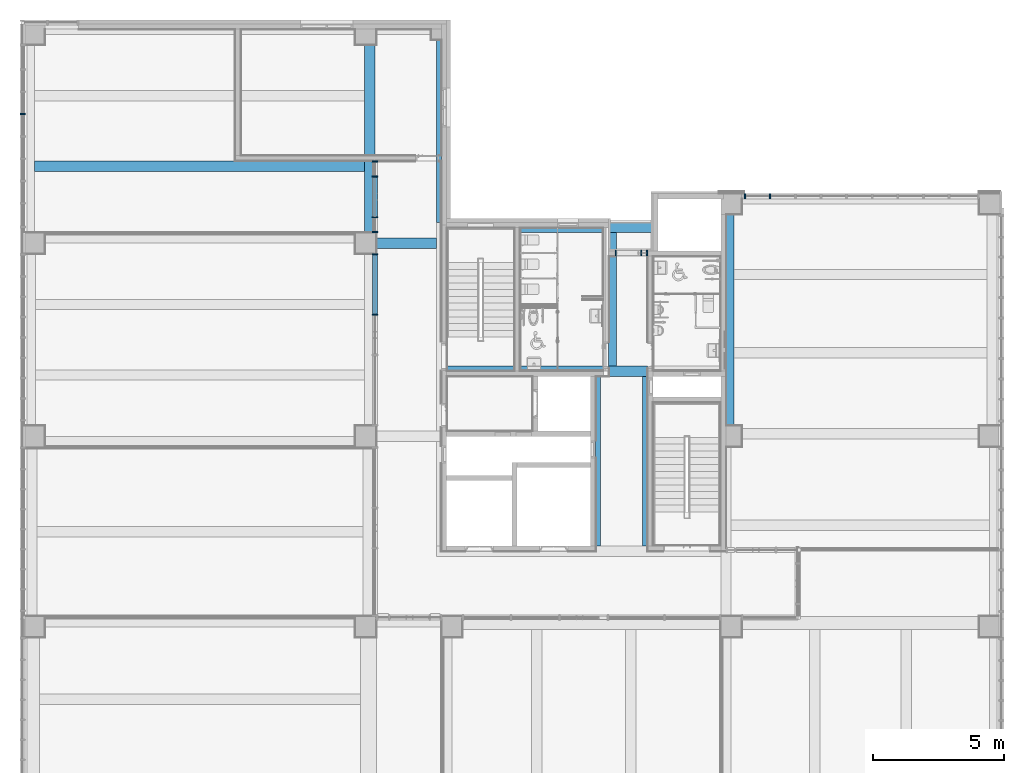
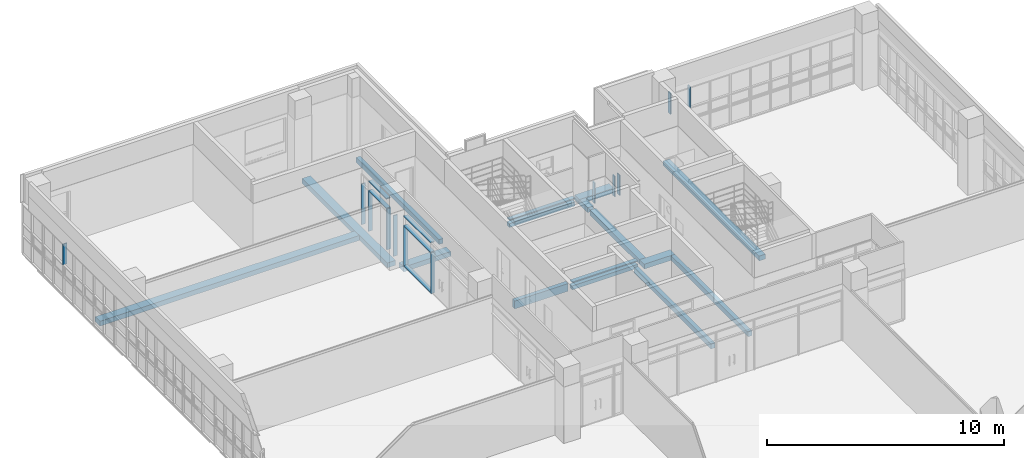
# One storey, part 7 of 76: 17 members, 10 beams, 5 elements without a shape of their own.
"""IFC2X3 building model written with IfcOpenShell, lengths in millimetres."""

from ifc_helpers import new_model, entity, si_unit, converted_unit, derived_unit, direction, frame, frame_2d, origin, origin_2d_with_axis, place, context, subcontext, project, spatial, rectangle, extrude, source, transform, mapped, material, type_object, type_shapes, element, aggregate, save


model = new_model("IFC2X3")

# Units and contexts
model_context = context("Model", 3, precision=0.01, world=origin(), true_north=direction((6.123031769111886e-17, 1.0)))
body_context = subcontext(model_context, "Body", "Model", "MODEL_VIEW")
ifc_project = project(units=[si_unit("LENGTHUNIT", "METRE", prefix="MILLI"), si_unit("AREAUNIT", "SQUARE_METRE"), si_unit("VOLUMEUNIT", "CUBIC_METRE"), converted_unit("PLANEANGLEUNIT", "DEGREE", entity("IfcRatioMeasure", 0.017453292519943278), si_unit("PLANEANGLEUNIT", "RADIAN"), dimensions=[0, 0, 0, 0, 0, 0, 0]), si_unit("MASSUNIT", "GRAM", prefix="KILO"), derived_unit("MASSDENSITYUNIT", [(si_unit("MASSUNIT", "GRAM", prefix="KILO"), 1), (si_unit("LENGTHUNIT", "METRE"), -3)]), derived_unit("MOMENTOFINERTIAUNIT", [(si_unit("LENGTHUNIT", "METRE"), 4)]), si_unit("TIMEUNIT", "SECOND"), si_unit("FREQUENCYUNIT", "HERTZ"), si_unit("THERMODYNAMICTEMPERATUREUNIT", "DEGREE_CELSIUS"), derived_unit("THERMALTRANSMITTANCEUNIT", [(si_unit("MASSUNIT", "GRAM", prefix="KILO"), 1), (si_unit("THERMODYNAMICTEMPERATUREUNIT", "KELVIN"), -1), (si_unit("TIMEUNIT", "SECOND"), -3)]), derived_unit("VOLUMETRICFLOWRATEUNIT", [(si_unit("LENGTHUNIT", "METRE"), 3), (si_unit("TIMEUNIT", "SECOND"), -1)]), derived_unit("MASSFLOWRATEUNIT", [(si_unit("MASSUNIT", "GRAM", prefix="KILO"), 1), (si_unit("TIMEUNIT", "SECOND"), -1)]), derived_unit("ROTATIONALFREQUENCYUNIT", [(si_unit("TIMEUNIT", "SECOND"), -1)]), si_unit("ELECTRICCURRENTUNIT", "AMPERE"), si_unit("ELECTRICVOLTAGEUNIT", "VOLT"), si_unit("POWERUNIT", "WATT"), si_unit("FORCEUNIT", "NEWTON", prefix="KILO"), si_unit("ILLUMINANCEUNIT", "LUX"), si_unit("LUMINOUSFLUXUNIT", "LUMEN"), si_unit("LUMINOUSINTENSITYUNIT", "CANDELA"), derived_unit("USERDEFINED", [(si_unit("MASSUNIT", "GRAM", prefix="KILO"), -1), (si_unit("LENGTHUNIT", "METRE"), -2), (si_unit("TIMEUNIT", "SECOND"), 3), (si_unit("LUMINOUSFLUXUNIT", "LUMEN"), 1)]), derived_unit("SOUNDPOWERUNIT", [(si_unit("MASSUNIT", "GRAM", prefix="KILO"), 1), (si_unit("LENGTHUNIT", "METRE"), 2), (si_unit("TIMEUNIT", "SECOND"), -3)]), derived_unit("SOUNDPRESSUREUNIT", [(si_unit("MASSUNIT", "GRAM", prefix="KILO"), 1), (si_unit("LENGTHUNIT", "METRE"), -1), (si_unit("TIMEUNIT", "SECOND"), -2)]), derived_unit("LINEARVELOCITYUNIT", [(si_unit("LENGTHUNIT", "METRE"), 1), (si_unit("TIMEUNIT", "SECOND"), -1)]), si_unit("PRESSUREUNIT", "PASCAL"), derived_unit("USERDEFINED", [(si_unit("LENGTHUNIT", "METRE"), -2), (si_unit("MASSUNIT", "GRAM", prefix="KILO"), 1), (si_unit("TIMEUNIT", "SECOND"), -2)]), derived_unit("LINEARFORCEUNIT", [(si_unit("MASSUNIT", "GRAM", prefix="KILO"), 1), (si_unit("LENGTHUNIT", "METRE"), 1), (si_unit("TIMEUNIT", "SECOND"), -2), (si_unit("LENGTHUNIT", "METRE"), -1)]), derived_unit("PLANARFORCEUNIT", [(si_unit("MASSUNIT", "GRAM", prefix="KILO"), 1), (si_unit("LENGTHUNIT", "METRE"), 1), (si_unit("TIMEUNIT", "SECOND"), -2), (si_unit("LENGTHUNIT", "METRE"), -2)])], contexts=[model_context])

# Site, building, storey
site_placement = place(None, frame((-14167.972527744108, -657.2125860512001, 0.0)))
site = spatial("IfcSite", under=ifc_project, at=site_placement, Name="Default", CompositionType="ELEMENT")
building_placement = place(site_placement, origin())
building = spatial("IfcBuilding", under=site, at=building_placement, Name="Sample Building", CompositionType="ELEMENT")
storey_placement = place(building_placement, frame((0.0, 0.0, 9300.0)))
storey = spatial("IfcBuildingStorey", under=building, at=storey_placement, Name="지상 3층", CompositionType="ELEMENT", Elevation=9300.000000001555)

# Curtain wall, members
curtain_wall_type = type_object("IfcCurtainWallType", Name="커튼월:CW112-스테인리스 스틸 커튼월", PredefinedType="NOTDEFINED")
curtain_wall_1_placement = place(storey_placement, frame((0.0, 0.0, -9300.0)))
curtain_wall_1 = element("IfcCurtainWall", 1, at=curtain_wall_1_placement, inside=storey, type_object=curtain_wall_type, Name="커튼월:CW112-스테인리스 스틸 커튼월", ObjectType="커튼월:CW112-스테인리스 스틸 커튼월")
ifc_material_1 = material(Name="<Unnamed>")
member_type_1 = type_object("IfcMemberType", Name="직사각형 멀리언:CW200-직사각형 멀리언 50x200mm", PredefinedType="MULLION", material=ifc_material_1)
shared_shape_1 = source(origin(), body_context, "Body", "SweptSolid", [
    extrude(rectangle(XDim=200.0, YDim=50.0, at=origin_2d_with_axis()), frame((0.0, 0.0, -2100.0), z_axis=(0.0, 0.0, 1.0), x_axis=(0.0, -1.0, 0.0)), (0.0, 0.0, 1.0), 2100.0),
])
type_shapes(member_type_1, [shared_shape_1])
member_1_placement = place(curtain_wall_1_placement, frame((27522.955105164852, 29907.21227524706, 9380.0), z_axis=(0.0, 0.0, -1.0), x_axis=(0.0, -1.0, 0.0)))
member_1 = element("IfcMember", 2, at=member_1_placement, type_object=member_type_1, material=ifc_material_1, Name="직사각형 멀리언:CW200-직사각형 멀리언 50x200mm", ObjectType="직사각형 멀리언:CW200-직사각형 멀리언 50x200mm", context=body_context, shape_type="MappedRepresentation", body=[
    mapped(shared_shape_1, transform((0.0, 0.0, 0.0), scale=1.0)),
])
member_2_placement = place(curtain_wall_1_placement, frame((27522.955105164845, 28352.21258605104, 9380.0), z_axis=(0.0, 0.0, -1.0), x_axis=(0.0, -1.0, 0.0)))
member_2 = element("IfcMember", 3, at=member_2_placement, type_object=member_type_1, material=ifc_material_1, Name="직사각형 멀리언:CW200-직사각형 멀리언 50x200mm", ObjectType="직사각형 멀리언:CW200-직사각형 멀리언 50x200mm", context=body_context, shape_type="MappedRepresentation", body=[
    mapped(shared_shape_1, transform((0.0, 0.0, 0.0), scale=1.0)),
])

# Curtain wall, member
curtain_wall_2_placement = place(storey_placement, frame((0.0, 0.0, -9300.0)))
curtain_wall_2 = element("IfcCurtainWall", 4, at=curtain_wall_2_placement, inside=storey, type_object=curtain_wall_type, Name="커튼월:CW112-스테인리스 스틸 커튼월", ObjectType="커튼월:CW112-스테인리스 스틸 커튼월")
member_3_placement = place(curtain_wall_2_placement, frame((27522.955105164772, 24617.21230799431, 9380.0), z_axis=(0.0, 0.0, -1.0), x_axis=(0.0, -1.0, 0.0)))
member_3 = element("IfcMember", 5, at=member_3_placement, type_object=member_type_1, material=ifc_material_1, Name="직사각형 멀리언:CW200-직사각형 멀리언 50x200mm", ObjectType="직사각형 멀리언:CW200-직사각형 멀리언 50x200mm", context=body_context, shape_type="MappedRepresentation", body=[
    mapped(shared_shape_1, transform((0.0, 0.0, 0.0), scale=1.0)),
])

# Member
member_type_2 = type_object("IfcMemberType", Name="직사각형 멀리언:CW200-직사각형 멀리언 50x200mm", PredefinedType="MULLION", material=ifc_material_1)
shared_shape_2 = source(origin(), body_context, "Body", "SweptSolid", [
    extrude(rectangle(XDim=200.0, YDim=50.0, at=origin_2d_with_axis()), frame((-25.0, 0.0, -2100.0), z_axis=(0.0, 0.0, 1.0), x_axis=(0.0, -1.0, 0.0)), (0.0, 0.0, 1.0), 2099.9999999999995),
])
type_shapes(member_type_2, [shared_shape_2])
member_4_placement = place(curtain_wall_1_placement, frame((27522.955105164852, 30507.21227524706, 11480.0), z_axis=(0.0, 0.0, 1.0), x_axis=(0.0, 1.0, 0.0)))
member_4 = element("IfcMember", 6, at=member_4_placement, type_object=member_type_2, material=ifc_material_1, Name="직사각형 멀리언:CW200-직사각형 멀리언 50x200mm", ObjectType="직사각형 멀리언:CW200-직사각형 멀리언 50x200mm", context=body_context, shape_type="MappedRepresentation", body=[
    mapped(shared_shape_2, transform((0.0, 0.0, 0.0), scale=1.0)),
])

member_5_placement = place(curtain_wall_2_placement, frame((27522.955105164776, 26957.21230799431, 11480.0), z_axis=(0.0, 0.0, 1.0), x_axis=(0.0, 1.0, 0.0)))
member_5 = element("IfcMember", 7, at=member_5_placement, type_object=member_type_2, material=ifc_material_1, Name="직사각형 멀리언:CW200-직사각형 멀리언 50x200mm", ObjectType="직사각형 멀리언:CW200-직사각형 멀리언 50x200mm", context=body_context, shape_type="MappedRepresentation", body=[
    mapped(shared_shape_2, transform((0.0, 0.0, 0.0), scale=1.0)),
])

member_type_3 = type_object("IfcMemberType", Name="직사각형 멀리언:CW200-직사각형 멀리언 50x200mm", PredefinedType="MULLION", material=ifc_material_1)
shared_shape_3 = source(origin(), body_context, "Body", "SweptSolid", [
    extrude(rectangle(XDim=200.0, YDim=50.0, at=origin_2d_with_axis()), frame((-25.0, 0.0, -2100.0), z_axis=(0.0, 0.0, 1.0), x_axis=(0.0, -1.0, 0.0)), (0.0, 0.0, 1.0), 2100.0),
])
type_shapes(member_type_3, [shared_shape_3])
member_6_placement = place(curtain_wall_1_placement, frame((27522.955105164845, 27757.21230799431, 9380.0), z_axis=(0.0, 0.0, -1.0), x_axis=(0.0, -1.0, 0.0)))
member_6 = element("IfcMember", 8, at=member_6_placement, type_object=member_type_3, material=ifc_material_1, Name="직사각형 멀리언:CW200-직사각형 멀리언 50x200mm", ObjectType="직사각형 멀리언:CW200-직사각형 멀리언 50x200mm", context=body_context, shape_type="MappedRepresentation", body=[
    mapped(shared_shape_3, transform((0.0, 0.0, 0.0), scale=1.0)),
])

# Curtain wall, members
curtain_wall_3_placement = place(storey_placement, frame((0.0, 0.0, -9300.0)))
curtain_wall_3 = element("IfcCurtainWall", 9, at=curtain_wall_3_placement, inside=storey, type_object=curtain_wall_type, Name="커튼월:CW112-스테인리스 스틸 커튼월", ObjectType="커튼월:CW112-스테인리스 스틸 커튼월")
member_type_4 = type_object("IfcMemberType", Name="직사각형 멀리언:CW200-직사각형 멀리언 50x200mm", PredefinedType="MULLION", material=ifc_material_1)
shared_shape_4 = source(origin(), body_context, "Body", "SweptSolid", [
    extrude(rectangle(XDim=200.0, YDim=50.0, at=origin_2d_with_axis()), frame((-25.0, 0.0, -1050.0), z_axis=(0.0, 0.0, 1.0), x_axis=(0.0, -1.0, 0.0)), (0.0, 0.0, 1.0), 1050.0),
])
type_shapes(member_type_4, [shared_shape_4])
member_7_placement = place(curtain_wall_3_placement, frame((37967.96379814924, 26982.21229514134, 9380.0), z_axis=(0.0, 0.0, -1.0), x_axis=(1.0, 0.0, 0.0)))
member_7 = element("IfcMember", 10, at=member_7_placement, type_object=member_type_4, material=ifc_material_1, Name="직사각형 멀리언:CW200-직사각형 멀리언 50x200mm", ObjectType="직사각형 멀리언:CW200-직사각형 멀리언 50x200mm", context=body_context, shape_type="MappedRepresentation", body=[
    mapped(shared_shape_4, transform((0.0, 0.0, 0.0), scale=1.0)),
])
member_type_5 = type_object("IfcMemberType", Name="직사각형 멀리언:CW200-직사각형 멀리언 50x200mm", PredefinedType="MULLION", material=ifc_material_1)
shared_shape_5 = source(origin(), body_context, "Body", "SweptSolid", [
    extrude(rectangle(XDim=200.0, YDim=50.0, at=origin_2d_with_axis()), frame((0.0, 0.0, -1050.0), z_axis=(0.0, 0.0, 1.0), x_axis=(0.0, -1.0, 0.0)), (0.0, 0.0, 1.0), 1050.0),
])
type_shapes(member_type_5, [shared_shape_5])
member_8_placement = place(curtain_wall_3_placement, frame((37717.963798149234, 26982.21229514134, 9380.0), z_axis=(0.0, 0.0, -1.0), x_axis=(1.0, 0.0, 0.0)))
member_8 = element("IfcMember", 11, at=member_8_placement, type_object=member_type_5, material=ifc_material_1, Name="직사각형 멀리언:CW200-직사각형 멀리언 50x200mm", ObjectType="직사각형 멀리언:CW200-직사각형 멀리언 50x200mm", context=body_context, shape_type="MappedRepresentation", body=[
    mapped(shared_shape_5, transform((0.0, 0.0, 0.0), scale=1.0)),
])
member_type_6 = type_object("IfcMemberType", Name="직사각형 멀리언:CW200-직사각형 멀리언 50x200mm", PredefinedType="MULLION", material=ifc_material_1)
shared_shape_6 = source(origin(), body_context, "Body", "SweptSolid", [
    extrude(rectangle(XDim=200.0, YDim=50.0, at=origin_2d_with_axis()), frame((-25.0, 0.0, -1050.0), z_axis=(0.0, 0.0, 1.0), x_axis=(0.0, -1.0, 0.0)), (0.0, 0.0, 1.0), 1050.0),
])
type_shapes(member_type_6, [shared_shape_6])
member_9_placement = place(curtain_wall_3_placement, frame((36717.963798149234, 26982.212295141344, 10430.0), z_axis=(0.0, 0.0, 1.0), x_axis=(-1.0, 0.0, 0.0)))
member_9 = element("IfcMember", 12, at=member_9_placement, type_object=member_type_6, material=ifc_material_1, Name="직사각형 멀리언:CW200-직사각형 멀리언 50x200mm", ObjectType="직사각형 멀리언:CW200-직사각형 멀리언 50x200mm", context=body_context, shape_type="MappedRepresentation", body=[
    mapped(shared_shape_6, transform((0.0, 0.0, 0.0), scale=1.0)),
])
aggregate(curtain_wall_3, [member_7, member_8, member_9])

# Member
member_type_7 = type_object("IfcMemberType", Name="직사각형 멀리언:CW200-직사각형 멀리언 50x200mm", PredefinedType="MULLION", material=ifc_material_1)
shared_shape_7 = source(origin(), body_context, "Body", "SweptSolid", [
    extrude(rectangle(XDim=200.0, YDim=50.0, at=origin_2d_with_axis()), frame((0.0, 0.0, -1504.9996891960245), z_axis=(0.0, 0.0, 1.0), x_axis=(0.0, -1.0, 0.0)), (0.0, 0.0, 1.0), 1504.9996891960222),
])
type_shapes(member_type_7, [shared_shape_7])
member_10_placement = place(curtain_wall_1_placement, frame((27522.955105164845, 28377.212586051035, 11480.0), z_axis=(0.0, -1.0, 0.0), x_axis=(0.0, 0.0, 1.0)))
member_10 = element("IfcMember", 13, at=member_10_placement, type_object=member_type_7, material=ifc_material_1, Name="직사각형 멀리언:CW200-직사각형 멀리언 50x200mm", ObjectType="직사각형 멀리언:CW200-직사각형 멀리언 50x200mm", context=body_context, shape_type="MappedRepresentation", body=[
    mapped(shared_shape_7, transform((0.0, 0.0, 0.0), scale=1.0)),
])

member_type_8 = type_object("IfcMemberType", Name="직사각형 멀리언:CW200-직사각형 멀리언 50x200mm", PredefinedType="MULLION", material=ifc_material_1)
shared_shape_8 = source(origin(), body_context, "Body", "SweptSolid", [
    extrude(rectangle(XDim=200.0, YDim=50.0, at=origin_2d_with_axis()), frame((-25.0, 0.0, -1504.9996891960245), z_axis=(0.0, 0.0, 1.0), x_axis=(0.0, -1.0, 0.0)), (0.0, 0.0, 1.0), 1504.9996891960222),
])
type_shapes(member_type_8, [shared_shape_8])
member_11_placement = place(curtain_wall_1_placement, frame((27522.955105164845, 28377.212586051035, 12000.0), z_axis=(0.0, -1.0, 0.0), x_axis=(0.0, 0.0, 1.0)))
member_11 = element("IfcMember", 14, at=member_11_placement, type_object=member_type_8, material=ifc_material_1, Name="직사각형 멀리언:CW200-직사각형 멀리언 50x200mm", ObjectType="직사각형 멀리언:CW200-직사각형 멀리언 50x200mm", context=body_context, shape_type="MappedRepresentation", body=[
    mapped(shared_shape_8, transform((0.0, 0.0, 0.0), scale=1.0)),
])

aggregate(curtain_wall_1, [member_6, member_4, member_10, member_1, member_11, member_2])

member_type_9 = type_object("IfcMemberType", Name="직사각형 멀리언:CW200-직사각형 멀리언 50x200mm", PredefinedType="MULLION", material=ifc_material_1)
shared_shape_9 = source(origin(), body_context, "Body", "SweptSolid", [
    extrude(rectangle(XDim=200.0, YDim=50.0, at=origin_2d_with_axis()), frame((-25.0, 0.0, -2265.0), z_axis=(0.0, 0.0, 1.0), x_axis=(0.0, -1.0, 0.0)), (0.0, 0.0, 1.0), 2265.000000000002),
])
type_shapes(member_type_9, [shared_shape_9])
member_12_placement = place(curtain_wall_2_placement, frame((27522.955105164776, 26907.21230799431, 9380.0), z_axis=(0.0, 1.0, 0.0), x_axis=(0.0, 0.0, -1.0)))
member_12 = element("IfcMember", 15, at=member_12_placement, type_object=member_type_9, material=ifc_material_1, Name="직사각형 멀리언:CW200-직사각형 멀리언 50x200mm", ObjectType="직사각형 멀리언:CW200-직사각형 멀리언 50x200mm", context=body_context, shape_type="MappedRepresentation", body=[
    mapped(shared_shape_9, transform((0.0, 0.0, 0.0), scale=1.0)),
])

member_type_10 = type_object("IfcMemberType", Name="직사각형 멀리언:CW200-직사각형 멀리언 50x200mm", PredefinedType="MULLION", material=ifc_material_1)
shared_shape_10 = source(origin(), body_context, "Body", "SweptSolid", [
    extrude(rectangle(XDim=200.0, YDim=50.0, at=origin_2d_with_axis()), frame((-25.0, 0.0, -2265.0), z_axis=(0.0, 0.0, 1.0), x_axis=(0.0, -1.0, 0.0)), (0.0, 0.0, 1.0), 2265.0000000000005),
])
type_shapes(member_type_10, [shared_shape_10])
member_13_placement = place(curtain_wall_2_placement, frame((27522.955105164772, 24642.21230799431, 12000.0), z_axis=(0.0, -1.0, 0.0), x_axis=(0.0, 0.0, 1.0)))
member_13 = element("IfcMember", 16, at=member_13_placement, type_object=member_type_10, material=ifc_material_1, Name="직사각형 멀리언:CW200-직사각형 멀리언 50x200mm", ObjectType="직사각형 멀리언:CW200-직사각형 멀리언 50x200mm", context=body_context, shape_type="MappedRepresentation", body=[
    mapped(shared_shape_10, transform((0.0, 0.0, 0.0), scale=1.0)),
])

member_type_11 = type_object("IfcMemberType", Name="직사각형 멀리언:CW200-직사각형 멀리언 50x200mm", PredefinedType="MULLION", material=ifc_material_1)
shared_shape_11 = source(origin(), body_context, "Body", "SweptSolid", [
    extrude(rectangle(XDim=200.0, YDim=50.0, at=origin_2d_with_axis()), frame((0.0, 0.0, -2265.0), z_axis=(0.0, 0.0, 1.0), x_axis=(0.0, -1.0, 0.0)), (0.0, 0.0, 1.0), 2265.000000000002),
])
type_shapes(member_type_11, [shared_shape_11])
member_14_placement = place(curtain_wall_2_placement, frame((27522.955105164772, 24642.21230799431, 11480.0), z_axis=(0.0, -1.0, 0.0), x_axis=(0.0, 0.0, 1.0)))
member_14 = element("IfcMember", 17, at=member_14_placement, type_object=member_type_11, material=ifc_material_1, Name="직사각형 멀리언:CW200-직사각형 멀리언 50x200mm", ObjectType="직사각형 멀리언:CW200-직사각형 멀리언 50x200mm", context=body_context, shape_type="MappedRepresentation", body=[
    mapped(shared_shape_11, transform((0.0, 0.0, 0.0), scale=1.0)),
])

aggregate(curtain_wall_2, [member_12, member_13, member_3, member_5, member_14])

# Curtain wall, member
curtain_wall_4_placement = place(storey_placement, frame((0.0, 0.0, -9300.0)))
curtain_wall_4 = element("IfcCurtainWall", 18, at=curtain_wall_4_placement, inside=storey, type_object=curtain_wall_type, Name="커튼월:CW112-스테인리스 스틸 커튼월", ObjectType="커튼월:CW112-스테인리스 스틸 커튼월")
member_type_12 = type_object("IfcMemberType", Name="직사각형 멀리언:CW200-직사각형 멀리언 50x200mm", PredefinedType="MULLION", material=ifc_material_1)
shared_shape_12 = source(origin(), body_context, "Body", "SweptSolid", [
    extrude(rectangle(XDim=200.0, YDim=50.0, at=origin_2d_with_axis()), frame((0.0, 0.0, -1070.0), z_axis=(0.0, 0.0, 1.0), x_axis=(0.0, -1.0, 0.0)), (0.0, 0.0, 1.0), 1070.000000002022),
])
type_shapes(member_type_12, [shared_shape_12])
member_15_placement = place(curtain_wall_4_placement, frame((14018.587904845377, 32301.817707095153, 10930.0), z_axis=(0.0, 0.0, -1.0), x_axis=(0.0, -1.0, 0.0)))
member_15 = element("IfcMember", 19, at=member_15_placement, type_object=member_type_12, material=ifc_material_1, Name="직사각형 멀리언:CW200-직사각형 멀리언 50x200mm", ObjectType="직사각형 멀리언:CW200-직사각형 멀리언 50x200mm", context=body_context, shape_type="MappedRepresentation", body=[
    mapped(shared_shape_12, transform((0.0, 0.0, 0.0), scale=1.0)),
])
aggregate(curtain_wall_4, [member_15])

# Curtain wall, members
curtain_wall_5_placement = place(storey_placement, frame((0.0, 0.0, -9300.0)))
curtain_wall_5 = element("IfcCurtainWall", 20, at=curtain_wall_5_placement, inside=storey, type_object=curtain_wall_type, Name="커튼월:CW112-스테인리스 스틸 커튼월", ObjectType="커튼월:CW112-스테인리스 스틸 커튼월")
member_16_placement = place(curtain_wall_5_placement, frame((42647.97161966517, 29157.21229514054, 10930.0), z_axis=(0.0, 0.0, -1.0), x_axis=(-1.0, 0.0, 0.0)))
member_16 = element("IfcMember", 21, at=member_16_placement, type_object=member_type_12, material=ifc_material_1, Name="직사각형 멀리언:CW200-직사각형 멀리언 50x200mm", ObjectType="직사각형 멀리언:CW200-직사각형 멀리언 50x200mm", context=body_context, shape_type="MappedRepresentation", body=[
    mapped(shared_shape_12, transform((0.0, 0.0, 0.0), scale=1.0)),
])
member_type_13 = type_object("IfcMemberType", Name="직사각형 멀리언:CW200-직사각형 멀리언 50x200mm", PredefinedType="MULLION", material=ifc_material_1)
shared_shape_13 = source(origin(), body_context, "Body", "SweptSolid", [
    extrude(rectangle(XDim=200.0, YDim=50.0, at=origin_2d_with_axis()), frame((-25.0, 0.0, -1070.0), z_axis=(0.0, 0.0, 1.0), x_axis=(0.0, -1.0, 0.0)), (0.0, 0.0, 1.0), 1070.000000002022),
])
type_shapes(member_type_13, [shared_shape_13])
member_17_placement = place(curtain_wall_5_placement, frame((41667.97248530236, 29157.212295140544, 10930.0), z_axis=(0.0, 0.0, -1.0), x_axis=(-1.0, 0.0, 0.0)))
member_17 = element("IfcMember", 22, at=member_17_placement, type_object=member_type_13, material=ifc_material_1, Name="직사각형 멀리언:CW200-직사각형 멀리언 50x200mm", ObjectType="직사각형 멀리언:CW200-직사각형 멀리언 50x200mm", context=body_context, shape_type="MappedRepresentation", body=[
    mapped(shared_shape_13, transform((0.0, 0.0, 0.0), scale=1.0)),
])
aggregate(curtain_wall_5, [member_17, member_16])

# Beams
ifc_material_2 = material(Name="KBIMS-콘크리트")
beam_type_1 = type_object("IfcBeamType", Name="BM111-철근콘크리트구조 보:BM110-철근 콘크리트구조 보_400 x 400_2-10B3", PredefinedType="NOTDEFINED")
beam_1_placement = place(storey_placement, frame((27318.061800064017, 30307.21247892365, 0.0), z_axis=(0.0, 0.0, 1.0), x_axis=(-1.0, 0.0, 0.0)))
element("IfcBeam", 23, at=beam_1_placement, inside=storey, type_object=beam_type_1, material=ifc_material_2, Name="BM111-철근콘크리트구조 보:BM110-철근 콘크리트구조 보_400 x 400_2-10B3", ObjectType="BM111-철근콘크리트구조 보:BM110-철근 콘크리트구조 보_400 x 400_2-10B3", context=body_context, shape_type="SweptSolid", body=[
    extrude(rectangle(XDim=250.00000000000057, YDim=400.0000000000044, at=frame_2d((5.400124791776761e-13, 0.0), x_axis=(1.0, 0.0))), frame((200.0, 0.0, -275.0), z_axis=(1.0, 0.0, 0.0), x_axis=(0.0, 0.0, -1.0)), (0.0, 0.0, 1.0), 12650.106713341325),
])
beam_type_2 = type_object("IfcBeamType", Name="BM111-철근콘크리트구조 보:BM110-철근 콘크리트구조 보_400 x 400_2-10G3", PredefinedType="NOTDEFINED")
beam_2_placement = place(storey_placement, frame((27318.061800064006, 27357.212478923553, 0.0)))
element("IfcBeam", 24, at=beam_2_placement, inside=storey, type_object=beam_type_2, material=ifc_material_2, Name="BM111-철근콘크리트구조 보:BM110-철근 콘크리트구조 보_400 x 400_2-10G3", ObjectType="BM111-철근콘크리트구조 보:BM110-철근 콘크리트구조 보_400 x 400_2-10G3", context=body_context, shape_type="SweptSolid", body=[
    extrude(rectangle(XDim=250.00000000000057, YDim=400.0000000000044, at=frame_2d((5.400124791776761e-13, 0.0), x_axis=(1.0, 0.0))), frame((249.89334171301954, 0.0, -275.0), z_axis=(1.0, 0.0, 0.0), x_axis=(0.0, 0.0, -1.0)), (0.0, 0.0, 1.0), 2299.991307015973),
])
beam_type_3 = type_object("IfcBeamType", Name="BM111-철근콘크리트구조 보:BM110-철근 콘크리트구조 보_400 x 400_2-10G10", PredefinedType="NOTDEFINED")
beam_3_placement = place(storey_placement, frame((27318.061800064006, 27357.212478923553, 0.0), z_axis=(0.0, 0.0, 1.0), x_axis=(0.0, 1.0, 0.0)))
element("IfcBeam", 25, at=beam_3_placement, inside=storey, type_object=beam_type_3, material=ifc_material_2, Name="BM111-철근콘크리트구조 보:BM110-철근 콘크리트구조 보_400 x 400_2-10G10", ObjectType="BM111-철근콘크리트구조 보:BM110-철근 콘크리트구조 보_400 x 400_2-10G10", context=body_context, shape_type="SweptSolid", body=[
    extrude(rectangle(XDim=250.00000000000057, YDim=400.000000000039, at=frame_2d((5.400124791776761e-13, -2.1657342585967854e-11), x_axis=(1.0, 0.0))), frame((400.0001381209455, 0.0, -275.0), z_axis=(1.0, 0.0, 0.0), x_axis=(0.0, 0.0, -1.0)), (0.0, 0.0, 1.0), 7199.999987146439),
])
beam_type_4 = type_object("IfcBeamType", Name="BM111-철근콘크리트구조 보:BM110-철근 콘크리트구조 보_500 x 400_2-10G5", PredefinedType="NOTDEFINED")
beam_4_placement = place(storey_placement, frame((41017.972607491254, 29157.212617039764, 0.0), z_axis=(0.0, 0.0, 1.0), x_axis=(0.0, -1.0, 0.0)))
element("IfcBeam", 26, at=beam_4_placement, inside=storey, type_object=beam_type_4, material=ifc_material_2, Name="BM111-철근콘크리트구조 보:BM110-철근 콘크리트구조 보_500 x 400_2-10G5", ObjectType="BM111-철근콘크리트구조 보:BM110-철근 콘크리트구조 보_500 x 400_2-10G5", context=body_context, shape_type="SweptSolid", body=[
    extrude(rectangle(XDim=250.00000000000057, YDim=300.0088093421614, at=frame_2d((5.400124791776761e-13, -1.7323031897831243e-11), x_axis=(1.0, 0.0))), frame((700.0, 99.99559532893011, -275.0), z_axis=(1.0, 0.0, 0.0), x_axis=(0.0, 0.0, -1.0)), (0.0, 0.0, 1.0), 8100.000000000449),
])
beam_type_5 = type_object("IfcBeamType", Name="BM111-철근콘크리트구조 보:BM110-철근 콘크리트구조 보_400 x 400_2-10G2", PredefinedType="BEAM", material=ifc_material_2)
beam_5_placement = place(storey_placement, frame((30067.94641218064, 28157.212604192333, 0.0), z_axis=(0.0, 0.0, 1.0), x_axis=(0.0, 1.0, 0.0)))
element("IfcBeam", 27, at=beam_5_placement, inside=storey, type_object=beam_type_5, material=ifc_material_2, Name="BM111-철근콘크리트구조 보:BM110-철근 콘크리트구조 보_400 x 400_2-10G2", ObjectType="BM111-철근콘크리트구조 보:BM110-철근 콘크리트구조 보_400 x 400_2-10G2", context=body_context, shape_type="SweptSolid", body=[
    extrude(rectangle(XDim=250.00000000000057, YDim=200.01734935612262, at=frame_2d((5.400124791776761e-13, -6.501466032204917e-12), x_axis=(1.0, 0.0))), frame((0.0, 99.99132532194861, -275.0), z_axis=(1.0, 0.0, 0.0), x_axis=(0.0, 0.0, -1.0)), (0.0, 0.0, 1.0), 7000.000012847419),
])
beam_type_6 = type_object("IfcBeamType", Name="BM111-철근콘크리트구조 보:BM110-철근 콘크리트구조 보_400 x 400_2-10WG2", PredefinedType="NOTDEFINED")
beam_6_placement = place(storey_placement, frame((35967.95514177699, 15557.212604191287, 0.0), z_axis=(0.0, 0.0, 1.0), x_axis=(0.0, 1.0, 0.0)))
element("IfcBeam", 28, at=beam_6_placement, inside=storey, type_object=beam_type_6, material=ifc_material_2, Name="BM111-철근콘크리트구조 보:BM110-철근 콘크리트구조 보_400 x 400_2-10WG2", ObjectType="BM111-철근콘크리트구조 보:BM110-철근 콘크리트구조 보_400 x 400_2-10WG2", context=body_context, shape_type="SweptSolid", body=[
    extrude(rectangle(XDim=250.00000000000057, YDim=199.98265064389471, at=frame_2d((5.400124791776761e-13, -2.1600499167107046e-12), x_axis=(1.0, 0.0))), frame((200.0, -100.00867467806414, -275.0), z_axis=(1.0, 0.0, 0.0), x_axis=(0.0, 0.0, -1.0)), (0.0, 0.0, 1.0), 6499.999509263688),
])
beam_type_7 = type_object("IfcBeamType", Name="BM111-철근콘크리트구조 보:BM110-철근 콘크리트구조 보_400 x 400_2-10B4", PredefinedType="NOTDEFINED")
beam_7_placement = place(storey_placement, frame((37967.94644879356, 15557.212604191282, 0.0), z_axis=(0.0, 0.0, 1.0), x_axis=(0.0, 1.0, 0.0)))
element("IfcBeam", 29, at=beam_7_placement, inside=storey, type_object=beam_type_7, material=ifc_material_2, Name="BM111-철근콘크리트구조 보:BM110-철근 콘크리트구조 보_400 x 400_2-10B4", ObjectType="BM111-철근콘크리트구조 보:BM110-철근 콘크리트구조 보_400 x 400_2-10B4", context=body_context, shape_type="SweptSolid", body=[
    extrude(rectangle(XDim=250.00000000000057, YDim=200.01734935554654, at=frame_2d((5.400124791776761e-13, -4.334310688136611e-12), x_axis=(1.0, 0.0))), frame((200.0, 99.99132532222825, -275.0), z_axis=(1.0, 0.0, 0.0), x_axis=(0.0, 0.0, -1.0)), (0.0, 0.0, 1.0), 6499.49975463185),
])
beam_type_8 = type_object("IfcBeamType", Name="BM111-철근콘크리트구조 보:BM110-철근 콘크리트구조 보_400 x 400_2-10WG2", PredefinedType="BEAM", material=ifc_material_2)
shared_shape_14 = source(origin(), body_context, "Body", "SweptSolid", [
    extrude(rectangle(XDim=49.99999999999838, YDim=199.99980212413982, at=frame_2d((5.417888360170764e-13, -2.1671553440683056e-12), x_axis=(1.0, 0.0))), frame((33067.972491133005, 22557.212212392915, 9275.0), z_axis=(1.0, 0.0, 0.0), x_axis=(0.0, 0.0, -1.0)), (0.0, 0.0, 1.0), 3199.9913070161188),
    extrude(rectangle(XDim=250.00000000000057, YDim=400.0000000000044, at=frame_2d((5.400124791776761e-13, 0.0), x_axis=(1.0, 0.0))), frame((36467.963798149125, 22457.212113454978, 9025.0), z_axis=(1.0, 0.0, 0.0), x_axis=(0.0, 0.0, -1.0)), (0.0, 0.0, 1.0), 1500.000000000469),
    extrude(rectangle(XDim=400.0, YDim=199.99980212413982, at=frame_2d((0.0, -2.1671553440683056e-12), x_axis=(1.0, 0.0))), frame((30267.946448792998, 22557.212212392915, 9100.0), z_axis=(1.0, 0.0, 0.0), x_axis=(0.0, 0.0, -1.0)), (0.0, 0.0, 1.0), 2600.0260423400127),
    extrude(rectangle(XDim=200.00000000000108, YDim=199.9998021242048, at=frame_2d((-5.471179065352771e-13, -3.4653169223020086e-11), x_axis=(1.0, 0.0))), frame((33067.972491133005, 22557.212212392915, 9000.0), z_axis=(1.0, 0.0, 0.0), x_axis=(0.0, 0.0, -1.0)), (0.0, 0.0, 1.0), 3199.9913070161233),
])
type_shapes(beam_type_8, [shared_shape_14])
beam_8_placement = place(storey_placement, frame((0.0, 0.0, -9300.0)))
element("IfcBeam", 30, at=beam_8_placement, inside=storey, type_object=beam_type_8, material=ifc_material_2, Name="BM111-철근콘크리트구조 보:BM110-철근 콘크리트구조 보_400 x 400_2-10WG2", ObjectType="BM111-철근콘크리트구조 보:BM110-철근 콘크리트구조 보_400 x 400_2-10WG2", context=body_context, shape_type="MappedRepresentation", body=[
    mapped(shared_shape_14, transform((0.0, 0.0, 0.0), scale=1.0)),
])
beam_type_9 = type_object("IfcBeamType", Name="BM111-철근콘크리트구조 보:BM110-철근 콘크리트구조 보_400 x 400_2-10B4", PredefinedType="BEAM", material=ifc_material_2)
shared_shape_15 = source(origin(), body_context, "Body", "SweptSolid", [
    extrude(rectangle(XDim=250.00000000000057, YDim=300.00011635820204, at=frame_2d((-4.334310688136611e-12, 5.400124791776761e-13), x_axis=(0.0, 1.0))), frame((36617.96385632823, 26857.212295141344, 9025.0), z_axis=(0.0, -1.0, 0.0), x_axis=(-1.0, 0.0, 0.0)), (0.0, 0.0, 1.0), 4200.000181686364),
    extrude(rectangle(XDim=250.00000000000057, YDim=300.00011635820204, at=frame_2d((0.0, 5.400124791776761e-13), x_axis=(0.0, 1.0))), frame((36617.96385632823, 27757.212426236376, 9025.0), z_axis=(0.0, -1.0, 0.0), x_axis=(-1.0, 0.0, 0.0)), (0.0, 0.0, 1.0), 700.0001310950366),
])
type_shapes(beam_type_9, [shared_shape_15])
beam_9_placement = place(storey_placement, frame((0.0, 0.0, -9300.0)))
element("IfcBeam", 31, at=beam_9_placement, inside=storey, type_object=beam_type_9, material=ifc_material_2, Name="BM111-철근콘크리트구조 보:BM110-철근 콘크리트구조 보_400 x 400_2-10B4", ObjectType="BM111-철근콘크리트구조 보:BM110-철근 콘크리트구조 보_400 x 400_2-10B4", context=body_context, shape_type="MappedRepresentation", body=[
    mapped(shared_shape_15, transform((0.0, 0.0, 0.0), scale=1.0)),
])
beam_type_10 = type_object("IfcBeamType", Name="BM111-철근콘크리트구조 보:BM110-철근 콘크리트구조 보_400 x 400_2-10B5", PredefinedType="BEAM", material=ifc_material_2)
shared_shape_16 = source(origin(), body_context, "Body", "SweptSolid", [
    extrude(rectangle(XDim=250.00000000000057, YDim=400.0000000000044, at=frame_2d((5.400124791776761e-13, 0.0), x_axis=(1.0, 0.0))), frame((36467.963798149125, 27957.212426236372, 9025.0), z_axis=(1.0, 0.0, 0.0), x_axis=(0.0, 0.0, -1.0)), (0.0, 0.0, 1.0), 1700.0086929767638),
    extrude(rectangle(XDim=49.99999999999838, YDim=199.99988175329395, at=frame_2d((5.417888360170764e-13, 4.334310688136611e-12), x_axis=(1.0, 0.0))), frame((33067.972491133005, 27857.212367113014, 9275.0), z_axis=(1.0, 0.0, 0.0), x_axis=(0.0, 0.0, -1.0)), (0.0, 0.0, 1.0), 3199.9913070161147),
    extrude(rectangle(XDim=200.00000000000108, YDim=199.99988175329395, at=frame_2d((-5.471179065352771e-13, 4.334310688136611e-12), x_axis=(1.0, 0.0))), frame((33067.972491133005, 27857.212367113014, 9000.0), z_axis=(1.0, 0.0, 0.0), x_axis=(0.0, 0.0, -1.0)), (0.0, 0.0, 1.0), 3199.9913070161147),
])
type_shapes(beam_type_10, [shared_shape_16])
beam_10_placement = place(storey_placement, frame((0.0, 0.0, -9300.0)))
element("IfcBeam", 32, at=beam_10_placement, inside=storey, type_object=beam_type_10, material=ifc_material_2, Name="BM111-철근콘크리트구조 보:BM110-철근 콘크리트구조 보_400 x 400_2-10B5", ObjectType="BM111-철근콘크리트구조 보:BM110-철근 콘크리트구조 보_400 x 400_2-10B5", context=body_context, shape_type="MappedRepresentation", body=[
    mapped(shared_shape_16, transform((0.0, 0.0, 0.0), scale=1.0)),
])

save(model, "model.ifc")
